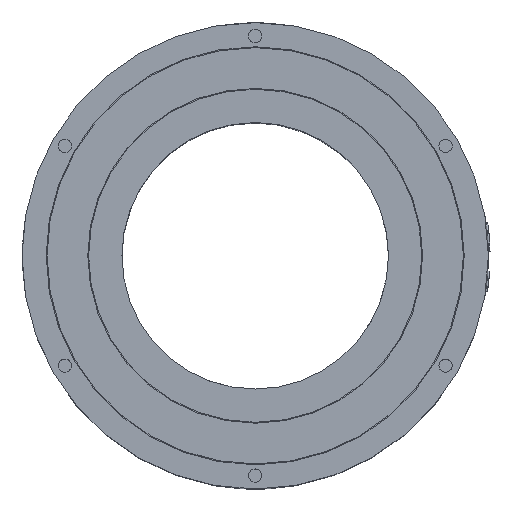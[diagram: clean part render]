
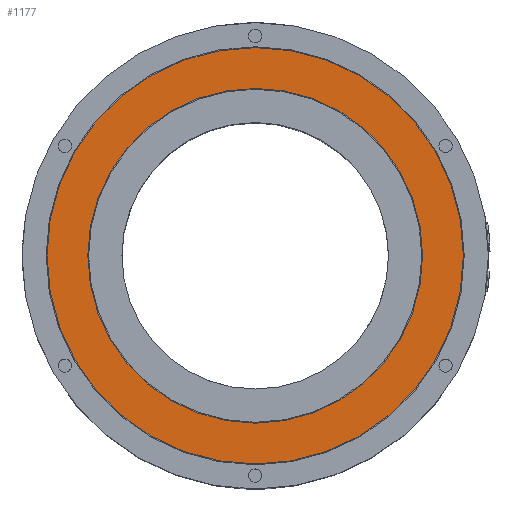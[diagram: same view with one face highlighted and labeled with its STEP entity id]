
A CAD part, top view. The second image highlights one B-rep face of the part: STEP entity #1177.
In plain terms, the highlighted planar face has unit normal (0, 0, 1).
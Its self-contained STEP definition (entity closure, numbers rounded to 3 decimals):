
#203=FACE_BOUND('',#2285,.T.);
#204=FACE_BOUND('',#2286,.T.);
#422=CIRCLE('',#7012,62.5);
#423=CIRCLE('',#7014,50.25);
#740=PLANE('',#7015);
#1177=ADVANCED_FACE('',(#203,#204),#740,.F.);
#2285=EDGE_LOOP('',(#3810));
#2286=EDGE_LOOP('',(#3811));
#3810=ORIENTED_EDGE('',*,*,#5840,.F.);
#3811=ORIENTED_EDGE('',*,*,#5839,.T.);
#4934=VERTEX_POINT('',#30095);
#4935=VERTEX_POINT('',#30098);
#5839=EDGE_CURVE('',#4934,#4934,#422,.T.);
#5840=EDGE_CURVE('',#4935,#4935,#423,.T.);
#7012=AXIS2_PLACEMENT_3D('',#30094,#8020,#8021);
#7014=AXIS2_PLACEMENT_3D('',#30097,#8024,#8025);
#7015=AXIS2_PLACEMENT_3D('',#30099,#8026,#8027);
#8020=DIRECTION('',(0.,0.,1.));
#8021=DIRECTION('',(1.,0.,0.));
#8024=DIRECTION('',(0.,0.,1.));
#8025=DIRECTION('',(-1.,0.,0.));
#8026=DIRECTION('',(0.,0.,-1.));
#8027=DIRECTION('',(1.,0.,0.));
#30094=CARTESIAN_POINT('',(0.,0.,97.));
#30095=CARTESIAN_POINT('',(62.5,0.,97.));
#30097=CARTESIAN_POINT('',(0.,0.,97.));
#30098=CARTESIAN_POINT('',(-50.25,0.,97.));
#30099=CARTESIAN_POINT('',(0.,0.,97.));
